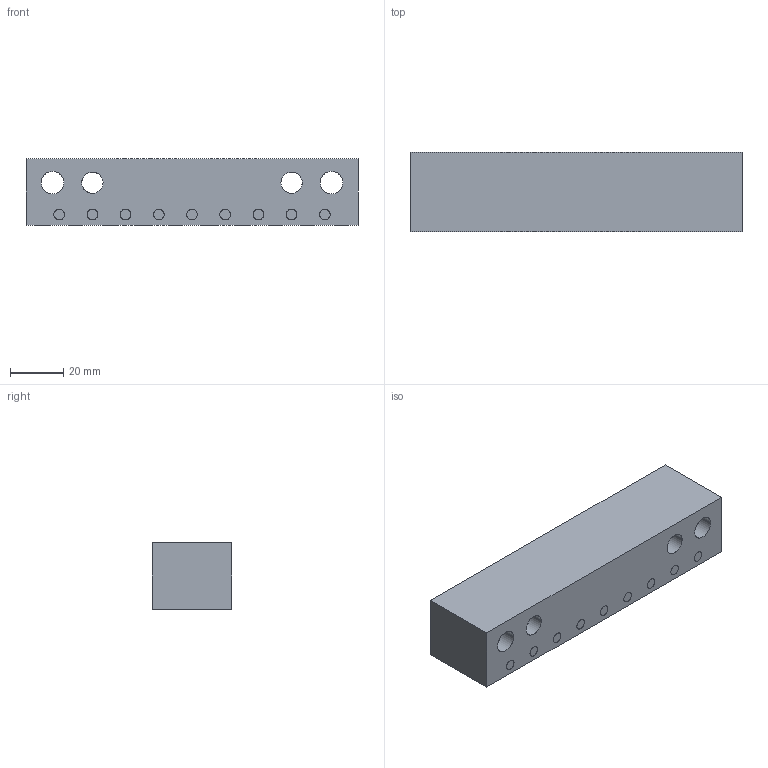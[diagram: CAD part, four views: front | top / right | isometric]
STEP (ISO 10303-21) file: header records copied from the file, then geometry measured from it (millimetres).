
FILE_DESCRIPTION(('CATIA V5 STEP Exchange'),'2;1');
FILE_NAME('C:\Users\Utente\Desktop\3D files G405\G40525125.stp','2020-04-22T09:20:11+00:00',('none'),('none'),'CATIA Version 5 Release 20 GA (IN-10)','CATIA V5 STEP AP203','none');
FILE_SCHEMA(('CONFIG_CONTROL_DESIGN'));
Length unit declared in the file: millimetre
Products named in the file (1): G40525125
Bounding box: 125 x 30 x 25 mm (x, y, z)
Surface area: 21514.5 mm2 (no closed solid volume)
Topology: 0 solids, 386 shells, 386 faces, 1656 edges, 1480 vertices
Faces by surface type: revolution 212, cylinder 128, plane 46
Entity records: 18260 total; most frequent: CARTESIAN_POINT 5993, DIRECTION 1934, ORIENTED_EDGE 1480, EDGE_CURVE 1480, VERTEX_POINT 1480, AXIS2_PLACEMENT_3D 845, VECTOR 704, LINE 704
